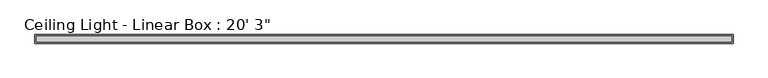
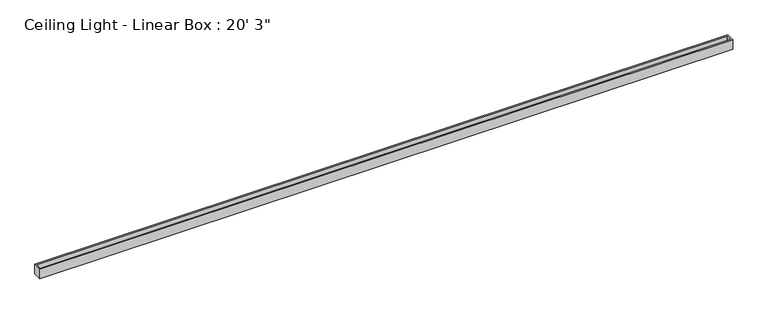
"""IFC4 building model written with IfcOpenShell, lengths in millimetres: light fixture geometry."""

import ifcopenshell
import ifcopenshell.guid

model = None  # the IFC model being written
_history = None  # IfcOwnerHistory: only IFC2X3 demands one
_inside = {}  # id of a spatial element -> (the spatial element, [elements in it])
_under = {}  # id of a project, library or spatial element -> (it, [spatial elements below it])
_declared = {}  # id of a project -> (the project, [libraries it declares])
_typed = {}  # id of a type object -> (the type object, [elements of that type])
_made_of = {}  # id of a material, layer set ... -> (it, [elements and type objects made of it])


def new_model(schema):
    """Start an empty IFC model of exactly this schema.

    Asked for "IFC4X3", IfcOpenShell would pick the latest addendum, in which some entities
    have other attributes; the version numbers below select the first issue.
    IFC2X3 requires an IfcOwnerHistory on every rooted entity: one is made here for all.
    """
    global model, _history
    if schema == "IFC4X3":
        model = ifcopenshell.file(schema_version=(4, 3, 0, 0))
    else:
        model = ifcopenshell.file(schema=schema)
    _inside.clear()
    _under.clear()
    _declared.clear()
    _typed.clear()
    _made_of.clear()
    _history = None
    if model.schema == "IFC2X3":
        org = make("IfcOrganization", Name="unknown")
        user = make(
            "IfcPersonAndOrganization",
            ThePerson=make("IfcPerson", FamilyName="unknown"),
            TheOrganization=org,
        )
        app = make(
            "IfcApplication",
            ApplicationDeveloper=org,
            Version="unknown",
            ApplicationFullName="unknown",
            ApplicationIdentifier="unknown",
        )
        _history = make(
            "IfcOwnerHistory",
            OwningUser=user,
            OwningApplication=app,
            ChangeAction="ADDED",
            CreationDate=0,
        )
    return model


def make(cls, **values):
    """One entity of the class cls with the attributes given. An attribute that is None is left unset."""
    return model.create_entity(
        cls, **{name: value for name, value in values.items() if value is not None}
    )


def rooted(cls, **values):
    """An entity with a GlobalId (a new one), such as an element, a storey or a relation."""
    return make(cls, GlobalId=ifcopenshell.guid.new(), OwnerHistory=_history, **values)


def si_unit(unit_type, name, prefix=None):
    """IfcSIUnit, for example si_unit("LENGTHUNIT", "METRE", prefix="MILLI")."""
    return make("IfcSIUnit", UnitType=unit_type, Prefix=prefix, Name=name)


def assignment(units):
    """IfcUnitAssignment: the units of a project."""
    return None if units is None else make("IfcUnitAssignment", Units=units)


def point(xyz):
    """IfcCartesianPoint."""
    return None if xyz is None else make("IfcCartesianPoint", Coordinates=xyz)


def direction(xyz):
    """IfcDirection."""
    return None if xyz is None else make("IfcDirection", DirectionRatios=xyz)


def frame(location, z_axis=None, x_axis=None):
    """IfcAxis2Placement3D, a coordinate frame: its origin and axes. An axis left out is left unset."""
    return make(
        "IfcAxis2Placement3D",
        Location=point(location),
        Axis=direction(z_axis),
        RefDirection=direction(x_axis),
    )


def origin():
    """The frame at (0, 0, 0) with its axes left unset."""
    return frame((0.0, 0.0, 0.0))


def place(relative_to, where):
    """IfcLocalPlacement: puts the frame where relative to a parent placement (None: the world)."""
    return make(
        "IfcLocalPlacement", PlacementRelTo=relative_to, RelativePlacement=where
    )


def context(
    kind, dimensions, precision=None, world=None, true_north=None, identifier=None
):
    """IfcGeometricRepresentationContext, for example the 3D "Model" context."""
    return make(
        "IfcGeometricRepresentationContext",
        ContextIdentifier=identifier,
        ContextType=kind,
        CoordinateSpaceDimension=dimensions,
        Precision=precision,
        WorldCoordinateSystem=world,
        TrueNorth=true_north,
    )


def project(units=None, contexts=None):
    """IfcProject with its units and contexts."""
    return rooted(
        "IfcProject",
        Name="project",
        RepresentationContexts=contexts,
        UnitsInContext=assignment(units),
    )


def spatial(cls, under=None, at=None, **own):
    """A site, building, storey or space (cls), placed at a placement, below another one or the project."""
    s = rooted(cls, ObjectPlacement=at, **own)
    if under is not None:
        _under.setdefault(under.id(), (under, []))[1].append(s)
    return s


def polyline(points):
    """IfcPolyline through the points."""
    return make("IfcPolyline", Points=[point(p) for p in points])


def outline(outer, holes=None, kind="AREA"):
    """IfcArbitraryClosedProfileDef: a profile drawn as a closed curve; with holes, ...WithVoids."""
    if holes is None:
        return make("IfcArbitraryClosedProfileDef", ProfileType=kind, OuterCurve=outer)
    return make(
        "IfcArbitraryProfileDefWithVoids",
        ProfileType=kind,
        OuterCurve=outer,
        InnerCurves=holes,
    )


def extrude(swept, where, along, depth):
    """IfcExtrudedAreaSolid: the profile swept, set in the frame where, extruded along a direction by depth."""
    return make(
        "IfcExtrudedAreaSolid",
        SweptArea=swept,
        Position=where,
        ExtrudedDirection=direction(along),
        Depth=depth,
    )


def shape(context_of_items, identifier, shape_type, items):
    """IfcShapeRepresentation: the items that make up one representation, for example the "Body"."""
    return make(
        "IfcShapeRepresentation",
        ContextOfItems=context_of_items,
        RepresentationIdentifier=identifier,
        RepresentationType=shape_type,
        Items=items,
    )


def source(mapping_origin, context_of_items, identifier, shape_type, items):
    """IfcRepresentationMap: a shape defined once, which mapped items show again and again."""
    return make(
        "IfcRepresentationMap",
        MappingOrigin=mapping_origin,
        MappedRepresentation=shape(context_of_items, identifier, shape_type, items),
    )


def transform(
    local_origin,
    x_axis=None,
    y_axis=None,
    z_axis=None,
    scale=None,
    scale2=None,
    scale3=None,
    uniform=True,
):
    """IfcCartesianTransformationOperator3D, or its non-uniform kind. x_axis, y_axis, z_axis: its Axis1, 2, 3."""
    if uniform:
        return make(
            "IfcCartesianTransformationOperator3D",
            Axis1=direction(x_axis),
            Axis2=direction(y_axis),
            LocalOrigin=point(local_origin),
            Scale=scale,
            Axis3=direction(z_axis),
        )
    return make(
        "IfcCartesianTransformationOperator3DnonUniform",
        Axis1=direction(x_axis),
        Axis2=direction(y_axis),
        LocalOrigin=point(local_origin),
        Scale=scale,
        Axis3=direction(z_axis),
        Scale2=scale2,
        Scale3=scale3,
    )


def mapped(mapping_source, mapping_target):
    """IfcMappedItem: shows the shape of a source again, moved by a transform."""
    return make(
        "IfcMappedItem", MappingSource=mapping_source, MappingTarget=mapping_target
    )


def made_of(thing, what):
    """Note that an element or type object is made of a material, layer set ...; save() writes the relation."""
    if what is not None:
        _made_of.setdefault(what.id(), (what, []))[1].append(thing)
    return thing


def element(
    cls,
    number,
    at=None,
    inside=None,
    cuts=None,
    type_object=None,
    material=None,
    context=None,
    identifier="Body",
    shape_type=None,
    held_by="IfcProductDefinitionShape",
    body=None,
    shapes=None,
    **own,
):
    """One element of the class cls, such as IfcWall. Its Tag is "e" and its number.

    at: its placement. inside: the storey or other place that contains it. cuts: it is an
    opening in that element (IfcRelVoidsElement). A single representation is given by context,
    identifier, shape_type and body (its items); several are given by shapes. held_by: the class
    of the entity that holds the representations. save() writes the other relations.
    """
    e = rooted(cls, Tag="e%d" % number, ObjectPlacement=at, **own)
    if body is not None:
        shapes = [shape(context, identifier, shape_type, body)]
    if shapes is not None:
        e.Representation = make(held_by, Representations=shapes)
    if inside is not None:
        _inside.setdefault(inside.id(), (inside, []))[1].append(e)
    if cuts is not None:
        rooted(
            "IfcRelVoidsElement", RelatingBuildingElement=cuts, RelatedOpeningElement=e
        )
    if type_object is not None:
        _typed.setdefault(type_object.id(), (type_object, []))[1].append(e)
    return made_of(e, material)


def aggregate(whole, parts):
    """IfcRelAggregates: a whole, such as a stair, and the parts it consists of."""
    return rooted("IfcRelAggregates", RelatingObject=whole, RelatedObjects=parts)


def save(model, path):
    """Write the relations noted so far, then the file.

    IfcRelAggregates (storeys below a building ...), IfcRelContainedInSpatialStructure (elements
    in a storey), IfcRelDefinesByType, IfcRelAssociatesMaterial and IfcRelDeclares: one each for
    every whole, place, type object, material and project.
    """
    for whole, parts in _under.values():
        aggregate(whole, parts)
    for where, things in _inside.values():
        rooted(
            "IfcRelContainedInSpatialStructure",
            RelatedElements=things,
            RelatingStructure=where,
        )
    for kind, things in _typed.values():
        rooted("IfcRelDefinesByType", RelatedObjects=things, RelatingType=kind)
    for what, things in _made_of.values():
        rooted("IfcRelAssociatesMaterial", RelatedObjects=things, RelatingMaterial=what)
    for by, libraries in _declared.values():
        rooted("IfcRelDeclares", RelatingContext=by, RelatedDefinitions=libraries)
    model.write(path)


def light_fixture_42e92d41(model_context):
    return source(origin(), model_context, "Body", "SweptSolid", [
        extrude(outline(polyline([(3073.4, 25.4), (3073.4, -25.4), (-3073.4, -25.4), (-3073.4, 25.4), (3073.4, 25.4)])), frame((0.0, 0.0, 2438.4), z_axis=(0.0, 0.0, 1.0), x_axis=(1.0, 0.0, 0.0)), (0.0, 0.0, 1.0), 6.35),
        extrude(outline(polyline([(3086.1, 38.1), (3086.1, -38.1), (-3086.1, -38.1), (-3086.1, 38.1), (3086.1, 38.1)]), holes=[polyline([(3073.4, 25.4), (-3073.4, 25.4), (-3073.4, -25.4), (3073.4, -25.4), (3073.4, 25.4)])]), frame((0.0, 0.0, 2438.4), z_axis=(0.0, 0.0, 1.0), x_axis=(1.0, 0.0, 0.0)), (0.0, 0.0, 1.0), 88.9),
    ])


if __name__ == "__main__":
    model = new_model("IFC4")
    model_context = context("Model", 3, world=origin())
    ifc_project = project(units=[si_unit("LENGTHUNIT", "METRE", prefix="MILLI")], contexts=[model_context])
    site = spatial("IfcSite", under=ifc_project)
    building = spatial("IfcBuilding", under=site)
    placement = place(None, origin())
    light_fixture_shape = light_fixture_42e92d41(model_context)
    element("IfcLightFixture", 1, ObjectType="Ceiling Light - Linear Box : 20' 3\"", at=placement, inside=building, context=model_context, shape_type="MappedRepresentation", body=[
        mapped(light_fixture_shape, transform((0.0, 0.0, 0.0), x_axis=(1.0, 0.0, 0.0), y_axis=(0.0, 1.0, 0.0), z_axis=(0.0, 0.0, 1.0))),
    ])
    save(model, "model.ifc")
